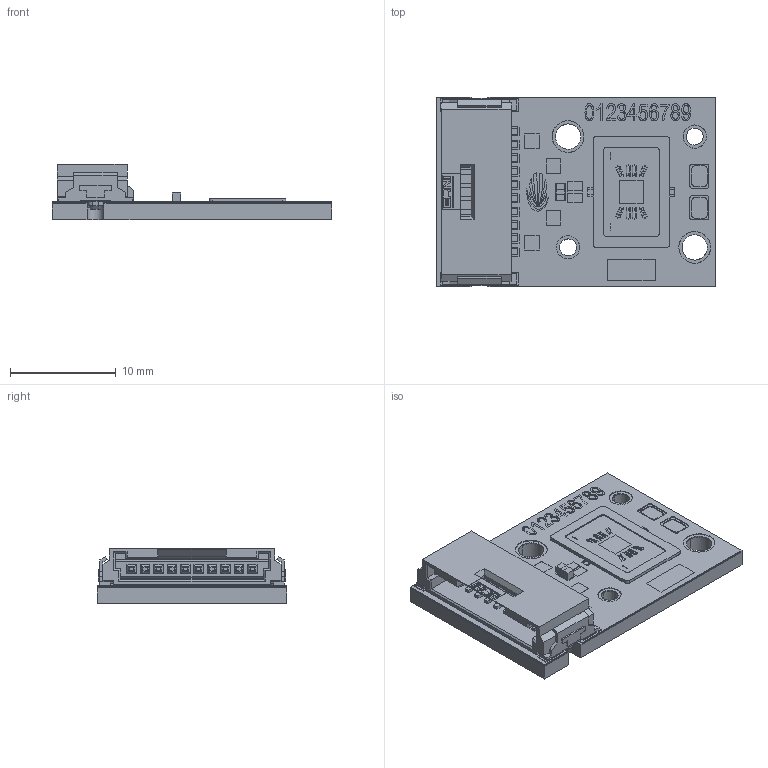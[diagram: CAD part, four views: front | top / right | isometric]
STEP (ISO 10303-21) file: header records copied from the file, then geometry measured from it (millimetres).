
FILE_DESCRIPTION(/* description */ (''),/* implementation_level */ '2;1');
FILE_NAME(/* name */ 'STECBAE',/* time_stamp */ '2025-01-14T14:51:10+08:00',/* author */ (''),/* organization */ (''),/* preprocessor_version */ 'ST-DEVELOPER v16.5',/* originating_system */ '',/* authorisation */ '');
FILE_SCHEMA (('CONFIG_CONTROL_DESIGN'));
Length unit declared in the file: millimetre
Products named in the file (2): Document; 图块 01
Assembly tree (1 placements, depth 2):
  Document
    图块 01
Bounding box: 26.5 x 18 x 5.23 mm (x, y, z)
Volume: 1054 mm3; surface area: 1804.4 mm2
Topology: 4 solids, 4 shells, 895 faces, 2380 edges, 1600 vertices
Faces by surface type: plane 671, cylinder 112, bspline 112
Entity records: 38922 total; most frequent: CARTESIAN_POINT 18791, ORIENTED_EDGE 4760, EDGE_CURVE 2380, B_SPLINE_CURVE_WITH_KNOTS 2047, VERTEX_POINT 1600, EDGE_LOOP 1016, ADVANCED_FACE 895, FACE_OUTER_BOUND 895
